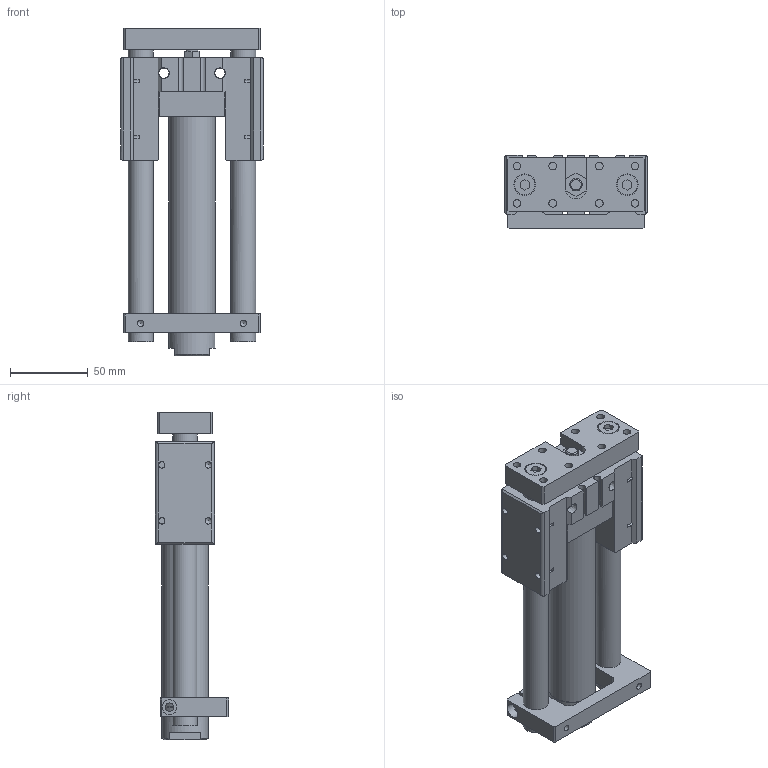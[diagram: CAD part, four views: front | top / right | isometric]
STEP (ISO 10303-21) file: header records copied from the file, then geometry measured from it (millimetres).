
FILE_DESCRIPTION((''),'2;1');
FILE_NAME('I:\3D電子目錄\氣缸\TMB(U)\TMB(U)\TMB(U)25\TMB(U)25x100.stp','2007-10-05T09:30:54',('Administrator'),(''),'Autodesk Inventor 11','Autodesk Inventor 11','');
FILE_SCHEMA(('AUTOMOTIVE_DESIGN { 1 0 10303 214 1 1 1 1 }'));
Length unit declared in the file: millimetre
Products named in the file (1): TMB(U)25
Bounding box: 92 x 47 x 211 mm (x, y, z)
Volume: 378478.3 mm3; surface area: 79287.5 mm2
Topology: 1 solids, 1 shells, 243 faces, 727 edges, 476 vertices
Faces by surface type: plane 149, bspline 49, cylinder 28, cone 17
Full cylindrical faces by diameter (mm): 4.134 x4, 5.5 x1, 8 x2, 9.5 x1, 13 x2, 14 x2, 16 x3, 30 x2
Entity records: 8294 total; most frequent: CARTESIAN_POINT 2323, ORIENTED_EDGE 1234, DIRECTION 1136, EDGE_CURVE 617, VERTEX_POINT 433, VECTOR 408, LINE 408, AXIS2_PLACEMENT_3D 364
